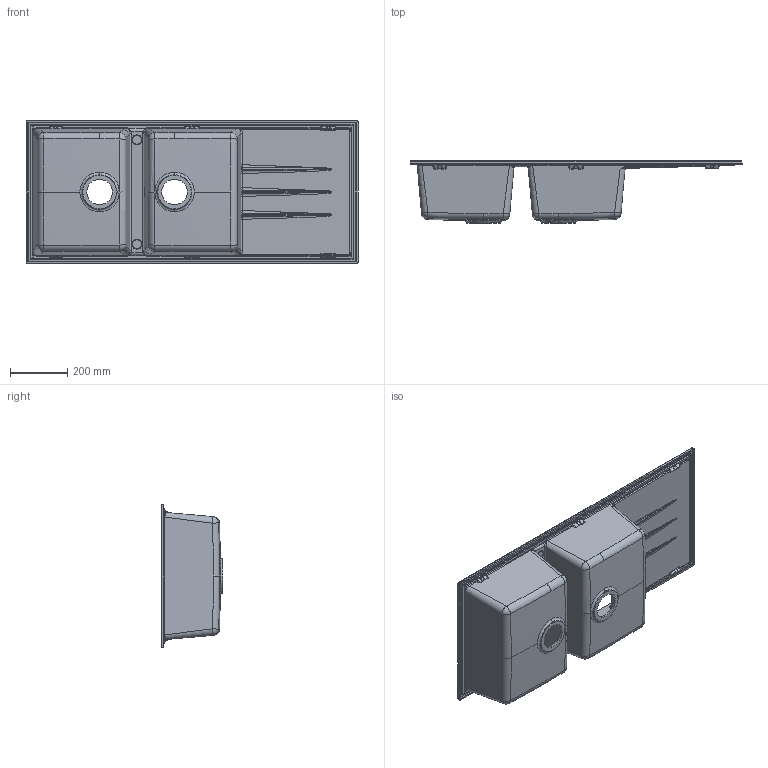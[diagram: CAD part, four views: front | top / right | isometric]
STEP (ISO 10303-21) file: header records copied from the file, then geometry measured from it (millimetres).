
FILE_DESCRIPTION (( 'STEP AP203' ), '1' );
FILE_NAME ('UNICO500_2020.STEP', '2020-06-03T14:42:20', ( 'utente1' ), ( '' ), 'SwSTEP 2.0', 'SolidWorks 2013', '' );
FILE_SCHEMA (( 'CONFIG_CONTROL_DESIGN' ));
Length unit declared in the file: millimetre
Products named in the file (1): UNICO500_2020
Bounding box: 1160 x 216.51 x 500 mm (x, y, z)
Volume: 8752622.6 mm3; surface area: 2152262.7 mm2
Topology: 1 solids, 1 shells, 687 faces, 1649 edges, 920 vertices
Faces by surface type: bspline 286, cylinder 220, plane 74, torus 51, sphere 44, cone 12
Entity records: 29257 total; most frequent: CARTESIAN_POINT 15787, ORIENTED_EDGE 3182, DIRECTION 2440, EDGE_CURVE 1591, AXIS2_PLACEMENT_3D 1015, VERTEX_POINT 912, EDGE_LOOP 699, ADVANCED_FACE 687
